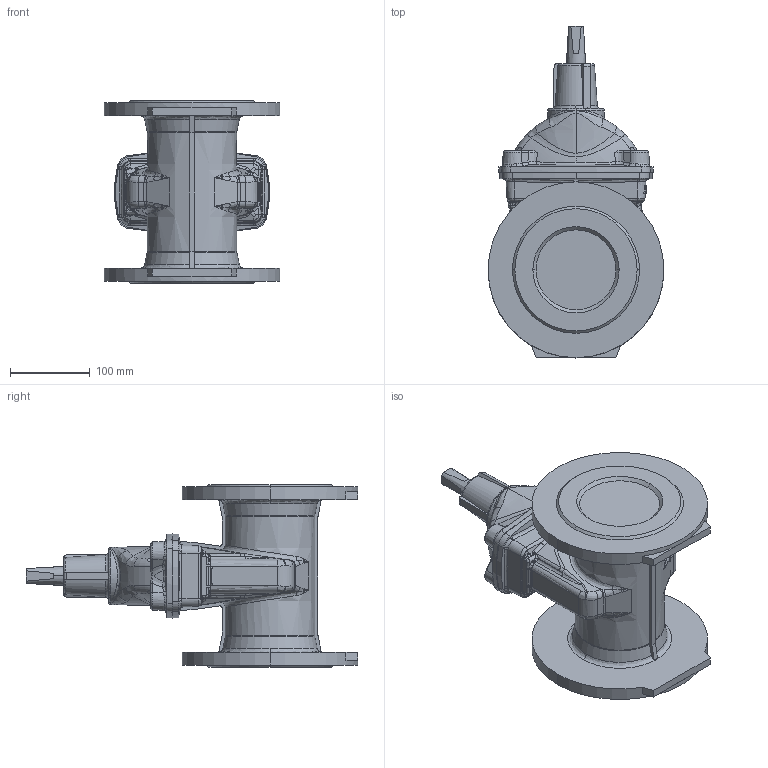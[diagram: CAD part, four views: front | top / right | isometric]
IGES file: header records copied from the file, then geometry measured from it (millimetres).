
Start section: SolidWorks IGES file using analytic representation for surfaces
Global section: file name: C:\Users\qida\Desktop\kerrie.qian\02_20 outline drawing\DN100\O_02_20_DN100_XXXXX9.IGS; native system: SolidWorks 2012; preprocessor: SolidWorks 2012; author: qida; date: 140714.153557; units: millimetre
Bounding box: 220 x 415.26 x 229 mm (x, y, z)
Volume: 5186823.7 mm3; surface area: 322858.1 mm2
Topology: 1 solids, 1 shells, 639 faces, 1602 edges, 966 vertices
Faces by surface type: bspline 264, revolution 209, plane 166
